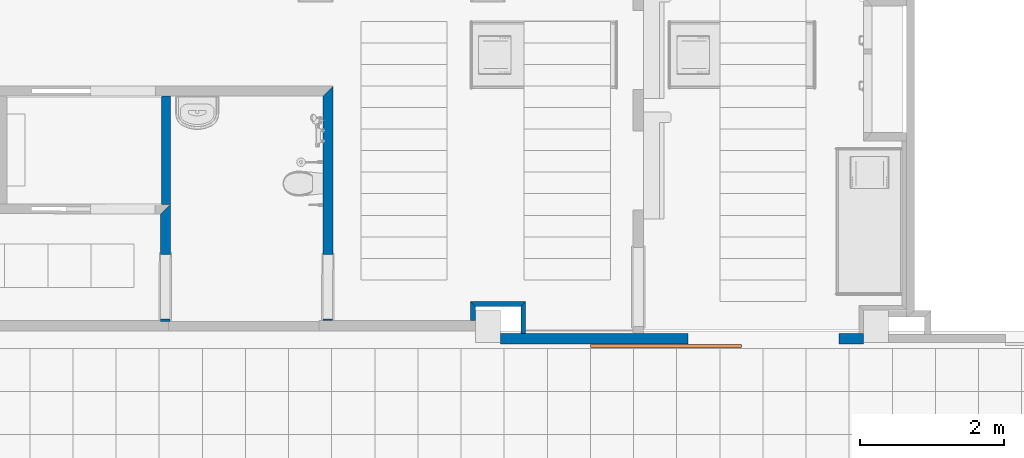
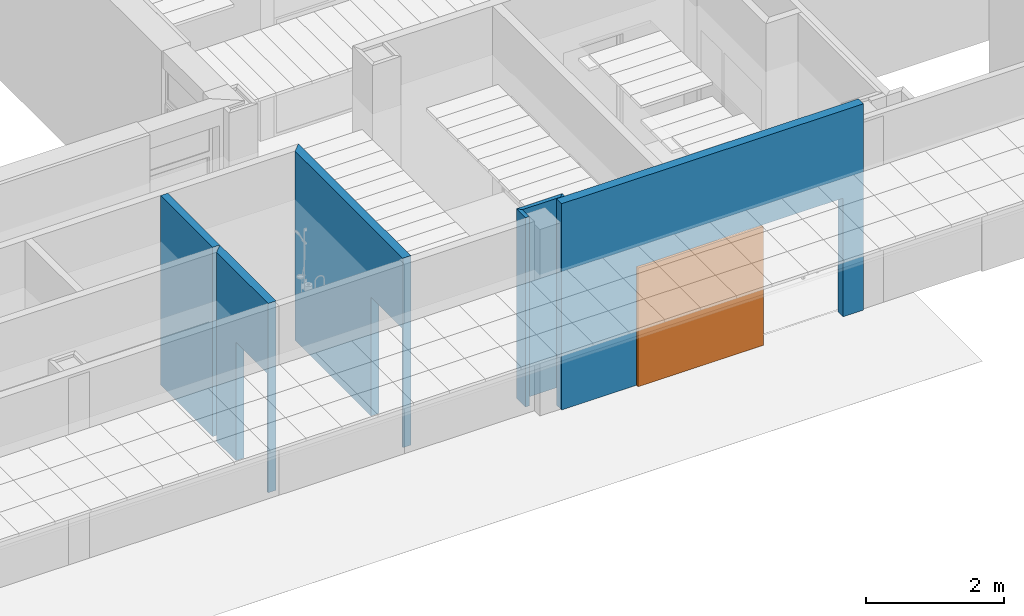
# One storey, part 32 of 68: 7 walls, 1 proxy, 3 openings.
"""IFC2X3 building model written with IfcOpenShell, lengths in millimetres."""

from ifc_helpers import new_model, entity, si_unit, converted_unit, derived_unit, money_unit, direction, frame, origin_with_axes, origin_2d_with_axis, place, context, subcontext, project, spatial, polyline, rectangle, outline, extrude, faceted_brep, material, layer, layer_set, layer_usage, type_object, element, fill, save


model = new_model("IFC2X3")

# Units and contexts
model_context = context("Model", 3, precision=0.01, world=origin_with_axes(), true_north=direction((0.0, 1.0)))
body_context = subcontext(model_context, "Body", "Model", "MODEL_VIEW")
ifc_project = project(units=[si_unit("LENGTHUNIT", "METRE", prefix="MILLI"), si_unit("AREAUNIT", "SQUARE_METRE"), si_unit("VOLUMEUNIT", "CUBIC_METRE"), converted_unit("PLANEANGLEUNIT", "DEGREE", entity("IfcPlaneAngleMeasure", 0.0174532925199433), si_unit("PLANEANGLEUNIT", "RADIAN"), dimensions=[0, 0, 0, 0, 0, 0, 0]), money_unit("USD"), converted_unit("TIMEUNIT", "Year", entity("IfcTimeMeasure", 31557600.0), si_unit("TIMEUNIT", "SECOND"), dimensions=[0, 0, 1, 0, 0, 0, 0]), si_unit("MASSUNIT", "GRAM", prefix="KILO"), si_unit("THERMODYNAMICTEMPERATUREUNIT", "DEGREE_CELSIUS"), si_unit("LUMINOUSINTENSITYUNIT", "LUMEN"), si_unit("ENERGYUNIT", "JOULE", prefix="MEGA"), derived_unit("THERMALCONDUCTANCEUNIT", [(si_unit("POWERUNIT", "WATT"), 1), (si_unit("LENGTHUNIT", "METRE"), -1), (si_unit("THERMODYNAMICTEMPERATUREUNIT", "KELVIN"), -1)]), derived_unit("SPECIFICHEATCAPACITYUNIT", [(si_unit("ENERGYUNIT", "JOULE"), 1), (si_unit("MASSUNIT", "GRAM", prefix="KILO"), -1), (si_unit("THERMODYNAMICTEMPERATUREUNIT", "KELVIN"), -1)]), derived_unit("MASSDENSITYUNIT", [(si_unit("MASSUNIT", "GRAM", prefix="KILO"), 1), (si_unit("VOLUMEUNIT", "CUBIC_METRE"), -1)])], contexts=[model_context])

# Site, building, storey
site_placement = place(None, origin_with_axes())
site = spatial("IfcSite", under=ifc_project, at=site_placement, Name="Sitio", CompositionType="ELEMENT")
building_placement = place(site_placement, origin_with_axes())
building = spatial("IfcBuilding", under=site, at=building_placement, Name="Construcción", CompositionType="ELEMENT")
storey_placement = place(building_placement, origin_with_axes())
storey = spatial("IfcBuildingStorey", under=building, at=storey_placement, Name="PLANTA 1ª", CompositionType="ELEMENT", Elevation=0.0)

# Walls
ifc_material_1 = material(Name="ARQ_FU093_Panellat_HPL")
ifc_layer_1 = layer(ifc_material_1, 6.0, ventilated="UNKNOWN")
ifc_material_2 = material(Name="ARQ_EN271_Camara_Aire")
ifc_layer_2 = layer(ifc_material_2, 6.0, ventilated="UNKNOWN")
ifc_material_3 = material(Name="Panel de Yeso Laminado")
ifc_layer_3 = layer(ifc_material_3, 13.0, ventilated="UNKNOWN")
ifc_material_4 = material(Name="ARQ_AI033_Aillament_Llana_De_Roca")
ifc_layer_4 = layer(ifc_material_4, 40.0, ventilated="UNKNOWN")
ifc_layer_set_1 = layer_set([ifc_layer_1, ifc_layer_2, ifc_layer_3, ifc_layer_4], Name="Pladur Tras 40 / 1N +HPL")
ifc_layer_usage_1 = layer_usage(ifc_layer_set_1, "AXIS2", "POSITIVE", -65.0)
wall_type_1 = type_object("IfcWallType", Name="Pladur Tras 40 / 1N +HPL 65", PredefinedType="NOTDEFINED")
wall_1_placement = place(storey_placement, frame((1063.890995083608, -16738.97565833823, 0.0), z_axis=(0.0, 0.0, 1.0), x_axis=(-1.0, 0.0, 0.0)))
element("IfcWallStandardCase", 1, at=wall_1_placement, inside=storey, type_object=wall_type_1, material=ifc_layer_usage_1, Name="MS-237", context=body_context, shape_type="SweptSolid", body=[
    extrude(outline(polyline([(-64.99999999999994, -65.00000000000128), (699.9999474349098, -65.00000000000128), (634.9999474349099, 0.0), (0.0, 0.0), (-64.99999999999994, -65.00000000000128)])), origin_with_axes(), (0.0, 0.0, 1.0), 3350.0),
])
ifc_layer_usage_2 = layer_usage(ifc_layer_set_1, "AXIS2", "POSITIVE", -65.0)
wall_2_placement = place(storey_placement, frame((1063.890995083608, -17264.97565901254, 0.0), z_axis=(0.0, 0.0, 1.0), x_axis=(0.0, 1.0, 0.0)))
element("IfcWallStandardCase", 2, at=wall_2_placement, inside=storey, type_object=wall_type_1, material=ifc_layer_usage_2, Name="MS-237", context=body_context, shape_type="SweptSolid", body=[
    extrude(outline(polyline([(146.0000000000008, -64.99999999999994), (591.0000006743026, -64.99999999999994), (526.0000006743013, 0.0), (146.0000000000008, 0.0), (146.0000000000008, -64.99999999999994)])), origin_with_axes(), (0.0, 0.0, 1.0), 3350.0),
])
ifc_layer_usage_3 = layer_usage(ifc_layer_set_1, "AXIS2", "NEGATIVE", 0.0)
wall_3_placement = place(storey_placement, frame((363.8910476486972, -17083.97582371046, 0.0), z_axis=(0.0, 0.0, 1.0), x_axis=(0.0, 1.0, 0.0)))
element("IfcWallStandardCase", 3, at=wall_3_placement, inside=storey, type_object=wall_type_1, material=ifc_layer_usage_3, Name="MS-223", context=body_context, shape_type="SweptSolid", body=[
    extrude(outline(polyline([(146.0000000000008, -65.0), (345.0001653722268, -65.0), (410.000165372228, 0.0), (146.0000000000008, 0.0), (146.0000000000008, -65.0)])), origin_with_axes(), (0.0, 0.0, 1.0), 3350.0),
])

# Wall, opening, proxy
ifc_layer_5 = layer(ifc_material_1, 6.0, ventilated="UNKNOWN")
ifc_layer_6 = layer(ifc_material_2, 6.0, ventilated="UNKNOWN")
ifc_layer_7 = layer(ifc_material_3, 13.0, ventilated="UNKNOWN")
ifc_layer_8 = layer(ifc_material_3, 13.0, ventilated="UNKNOWN")
ifc_layer_9 = layer(ifc_material_4, 70.0, ventilated="UNKNOWN")
ifc_layer_10 = layer(ifc_material_3, 13.0, ventilated="UNKNOWN")
ifc_layer_11 = layer(ifc_material_3, 13.0, ventilated="UNKNOWN")
ifc_layer_12 = layer(ifc_material_2, 6.0, ventilated="UNKNOWN")
ifc_layer_13 = layer(ifc_material_1, 6.0, ventilated="UNKNOWN")
ifc_layer_set_2 = layer_set([ifc_layer_5, ifc_layer_6, ifc_layer_7, ifc_layer_8, ifc_layer_9, ifc_layer_10, ifc_layer_11, ifc_layer_12, ifc_layer_13], Name="CR Pladur 70 HPL 2 cares")
ifc_layer_usage_4 = layer_usage(ifc_layer_set_2, "AXIS2", "POSITIVE", -146.0)
wall_type_2 = type_object("IfcWallType", Name="CR Pladur 70 HPL 2 cares 146", PredefinedType="NOTDEFINED")
wall_4_placement = place(storey_placement, frame((5828.891047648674, -17264.97565901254, 0.0), z_axis=(0.0, 0.0, 1.0), x_axis=(-1.0, 0.0, 0.0)))
wall_4 = element("IfcWallStandardCase", 4, at=wall_4_placement, inside=storey, type_object=wall_type_2, material=ifc_layer_usage_4, Name="MS-202", context=body_context, shape_type="SweptSolid", body=[
    extrude(outline(polyline([(0.0, -146.0000000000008), (5049.999996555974, -146.0000000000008), (5049.999996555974, 0.0), (0.0, 0.0), (0.0, -146.0000000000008)])), origin_with_axes(), (0.0, 0.0, 1.0), 3650.0),
])
opening_1_placement = place(wall_4_placement, frame((1389.054809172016, 0.0, 0.0), z_axis=(0.0, 0.0, 1.0), x_axis=(1.0, 0.0, 0.0)))
opening_1 = element("IfcOpeningElement", 5, at=opening_1_placement, cuts=wall_4, Name="P-05", context=body_context, shape_type="SweptSolid", body=[
    extrude(rectangle(XDim=2099.999999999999, YDim=2100.0, at=origin_2d_with_axis()), frame((0.0, -146.0000000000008, 1050.0), z_axis=(0.0, 1.0, 0.0), x_axis=(1.0, 0.0, 0.0)), (0.0, 0.0, 1.0), 438.0000000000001),
])
building_element_proxy_type = type_object("IfcBuildingElementProxyType", Name="Puerta Corredera Exterior 27", PredefinedType="NOTDEFINED")
proxy_placement = place(opening_1_placement, frame((-1050.0, 0.0, 0.0), z_axis=(0.0, 0.0, 1.0), x_axis=(1.0, 0.0, 0.0)))
proxy = element("IfcBuildingElementProxy", 6, at=proxy_placement, inside=storey, type_object=building_element_proxy_type, Name="P-05", context=body_context, shape_type="Brep", body=[
    faceted_brep([(3458.316929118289, 44.99999999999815, 0.0), (3458.316929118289, 4.999999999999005, 0.0), (1358.316929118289, 4.999999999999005, 0.0), (1358.316929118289, 45.00000000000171, 0.0), (3458.316929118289, 44.99999999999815, 2100.0), (3458.316929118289, 4.999999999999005, 2100.0), (1358.316929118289, 4.999999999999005, 2100.0), (1358.316929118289, 45.00000000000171, 2100.0)], [[[0, 1, 2, 3]], [[4, 5, 1, 0]], [[1, 5, 6, 2]], [[3, 2, 6, 7]], [[0, 3, 7, 4]], [[7, 6, 5, 4]]]),
])
fill(opening_1, proxy)

# Wall, opening
ifc_layer_14 = layer(ifc_material_1, 6.0, ventilated="UNKNOWN")
ifc_layer_15 = layer(ifc_material_2, 6.0, ventilated="UNKNOWN")
ifc_layer_16 = layer(ifc_material_3, 13.0, ventilated="UNKNOWN")
ifc_layer_17 = layer(ifc_material_3, 13.0, ventilated="UNKNOWN")
ifc_layer_18 = layer(ifc_material_4, 70.0, ventilated="UNKNOWN")
ifc_material_5 = material(Name="ARQ_CG063_Guix_Laminat_Hydro")
ifc_layer_19 = layer(ifc_material_5, 13.0, ventilated="UNKNOWN")
ifc_layer_20 = layer(ifc_material_5, 13.0, ventilated="UNKNOWN")
ifc_layer_set_3 = layer_set([ifc_layer_14, ifc_layer_15, ifc_layer_16, ifc_layer_17, ifc_layer_18, ifc_layer_19, ifc_layer_20], Name="CR Pladur 70 mixte HPL 1")
ifc_layer_usage_5 = layer_usage(ifc_layer_set_3, "AXIS2", "POSITIVE", -134.0)
wall_type_3 = type_object("IfcWallType", Name="CR Pladur 70 mixte HPL 1 134", PredefinedType="NOTDEFINED")
wall_5_placement = place(storey_placement, frame((-1689.41390142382, -17083.97582371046, 0.0), z_axis=(0.0, 0.0, 1.0), x_axis=(0.0007390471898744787, 0.9999997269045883, 0.0)))
wall_5 = element("IfcWallStandardCase", 7, at=wall_5_placement, inside=storey, type_object=wall_type_3, material=ifc_layer_usage_5, Name="MS-205", context=body_context, shape_type="SweptSolid", body=[
    extrude(outline(polyline([(146.0990722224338, -133.9999999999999), (3409.515132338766, -133.9999999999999), (3275.416063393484, 0.0), (146.0000398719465, 0.0), (146.0990722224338, -133.9999999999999)])), origin_with_axes(), (0.0, 0.0, 1.0), 3350.0),
])
opening_2_placement = place(wall_5_placement, frame((619.483532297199, 0.0, 0.0), z_axis=(0.0, 0.0, 1.0), x_axis=(1.0, 0.0, 0.0)))
element("IfcOpeningElement", 8, at=opening_2_placement, cuts=wall_5, Name="P-02", context=body_context, shape_type="SweptSolid", body=[
    extrude(rectangle(XDim=899.9999999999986, YDim=2100.0, at=origin_2d_with_axis()), frame((0.0, 134.0000000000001, 1050.0), z_axis=(0.0, -1.0, 0.0), x_axis=(-1.0, 0.0, 0.0)), (0.0, 0.0, 1.0), 402.0),
    extrude(rectangle(XDim=944.0000000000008, YDim=2122.0, at=origin_2d_with_axis()), frame((0.0, 0.0, 1061.0), z_axis=(0.0, -1.0, 0.0), x_axis=(-1.0, 0.0, 0.0)), (0.0, 0.0, -1.0), 134.0),
    extrude(rectangle(XDim=944.0000000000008, YDim=2122.0, at=origin_2d_with_axis()), frame((0.0, -133.9999999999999, 1061.0), z_axis=(0.0, 1.0, 0.0), x_axis=(-1.0, 0.0, 0.0)), (0.0, 0.0, -1.0), 134.0),
])

ifc_layer_usage_6 = layer_usage(ifc_layer_set_3, "AXIS2", "NEGATIVE", 134.0)
wall_6_placement = place(storey_placement, frame((-3816.507728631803, -17083.97582371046, 0.0), z_axis=(0.0, 0.0, 1.0), x_axis=(0.0007390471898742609, 0.9999997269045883, 0.0)))
wall_6 = element("IfcWallStandardCase", 9, at=wall_6_placement, inside=storey, type_object=wall_type_3, material=ifc_layer_usage_6, Name="MS-205", context=body_context, shape_type="SweptSolid", body=[
    extrude(outline(polyline([(134.0000365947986, 0.0), (1764.120343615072, 0.0), (1630.353187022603, 134.0000000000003), (133.9010042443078, 134.0000000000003), (134.0000365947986, 0.0)])), origin_with_axes(), (0.0, 0.0, 1.0), 3350.0),
])
opening_3_placement = place(wall_6_placement, frame((619.8329834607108, 0.0, 0.0), z_axis=(0.0, 0.0, 1.0), x_axis=(1.0, 0.0, 0.0)))
element("IfcOpeningElement", 10, at=opening_3_placement, cuts=wall_6, Name="P-02", context=body_context, shape_type="SweptSolid", body=[
    extrude(rectangle(XDim=899.9999999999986, YDim=2100.0, at=origin_2d_with_axis()), frame((0.0, -134.0000000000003, 1050.0), z_axis=(0.0, -1.0, 0.0), x_axis=(-1.0, 0.0, 0.0)), (0.0, 0.0, -1.0), 402.0),
    extrude(rectangle(XDim=943.9999999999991, YDim=2122.0, at=origin_2d_with_axis()), frame((0.0, 0.0, 1061.0), z_axis=(0.0, -1.0, 0.0), x_axis=(-1.0, 0.0, 0.0)), (0.0, 0.0, 1.0), 134.0),
    extrude(rectangle(XDim=944.0000000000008, YDim=2122.0, at=origin_2d_with_axis()), frame((0.0, 133.9999999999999, 1061.0), z_axis=(0.0, 1.0, 0.0), x_axis=(-1.0, 0.0, 0.0)), (0.0, 0.0, 1.0), 134.0),
])

# Wall
ifc_layer_21 = layer(ifc_material_5, 13.0, ventilated="UNKNOWN")
ifc_layer_22 = layer(ifc_material_5, 13.0, ventilated="UNKNOWN")
ifc_layer_23 = layer(ifc_material_4, 70.0, ventilated="UNKNOWN")
ifc_layer_24 = layer(ifc_material_5, 13.0, ventilated="UNKNOWN")
ifc_layer_25 = layer(ifc_material_5, 13.0, ventilated="UNKNOWN")
ifc_layer_set_4 = layer_set([ifc_layer_21, ifc_layer_22, ifc_layer_23, ifc_layer_24, ifc_layer_25], Name="CR Pladur 70 / 2H+2H")
ifc_layer_usage_7 = layer_usage(ifc_layer_set_4, "AXIS2", "POSITIVE", -122.0)
wall_type_4 = type_object("IfcWallType", Name="CR Pladur 70 / 2H+2H 122", PredefinedType="NOTDEFINED")
wall_7_placement = place(storey_placement, frame((-3937.203770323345, -15319.55362190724, 0.0), z_axis=(0.0, 0.0, 1.0), x_axis=(0.0007390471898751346, 0.9999997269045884, 0.0)))
element("IfcWallStandardCase", 11, at=wall_7_placement, inside=storey, type_object=wall_type_4, material=ifc_layer_usage_7, Name="MS-205", context=body_context, shape_type="SweptSolid", body=[
    extrude(outline(polyline([(-0.2121762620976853, -121.9999999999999), (1511.083543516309, -122.0000000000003), (1510.993379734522, 0.0), (0.0, 0.0), (-0.2121762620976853, -121.9999999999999)])), origin_with_axes(), (0.0, 0.0, 1.0), 3350.0),
])

save(model, "model.ifc")
